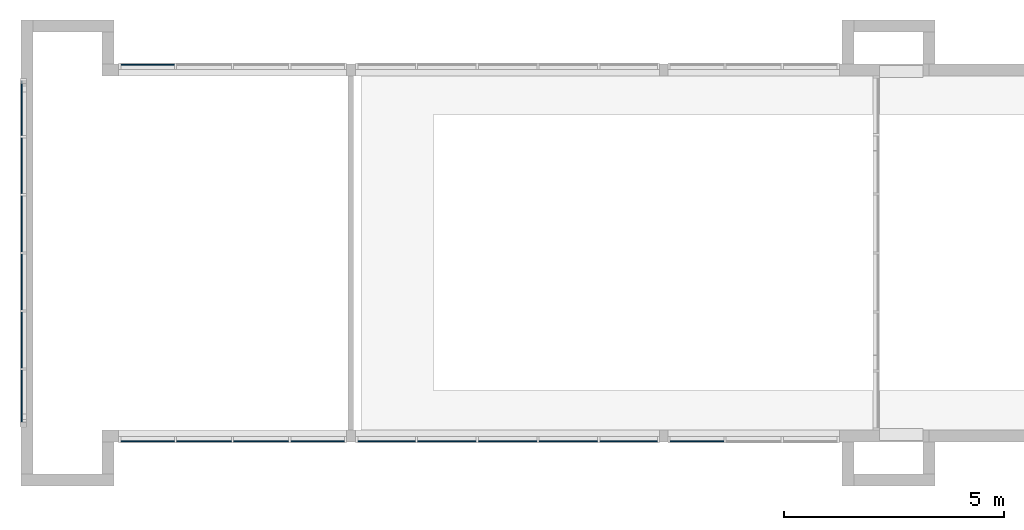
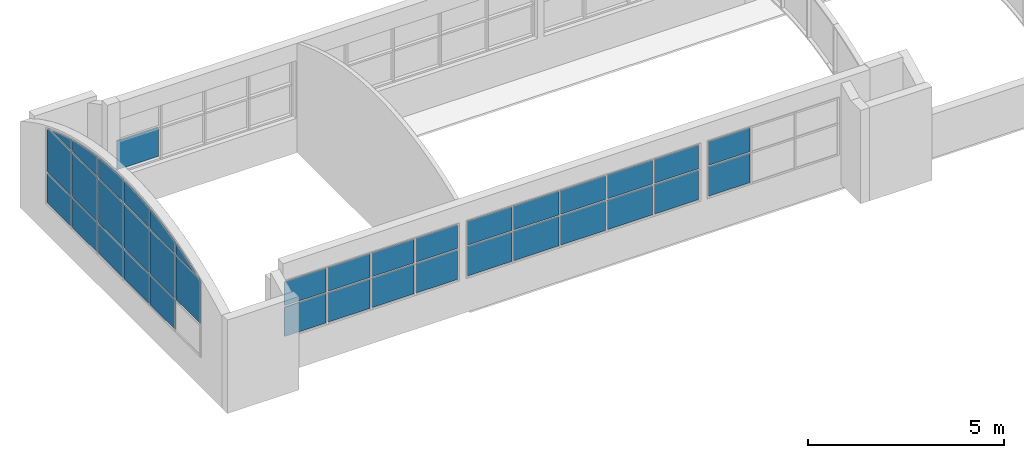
# One storey, part 9 of 14: 38 plates, 5 elements without a shape of their own.
"""IFC2X3 building model written with IfcOpenShell, lengths in metres."""

from ifc_helpers import new_model, entity, si_unit, converted_unit, frame, frame_2d, origin, origin_2d_with_axis, place, context, project, spatial, polyline, circle_curve, parameter, trimmed, segment, composite_curve, rectangle, outline, extrude, source, transform, mapped, material, type_object, type_shapes, element, aggregate, save


model = new_model("IFC2X3")

# Units and contexts
model_context = context("Model", 3, precision=1e-09, world=origin())
plan_context = context("Plan", 3, precision=1e-09, world=origin())
ifc_project = project(units=[si_unit("LENGTHUNIT", "METRE"), si_unit("AREAUNIT", "SQUARE_METRE"), si_unit("VOLUMEUNIT", "CUBIC_METRE"), converted_unit("PLANEANGLEUNIT", "DEGREE", entity("IfcRatioMeasure", 0.01745329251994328), si_unit("PLANEANGLEUNIT", "RADIAN"), dimensions=[0, 0, 0, 0, 0, 0, 0]), si_unit("TIMEUNIT", "SECOND")], contexts=[model_context, plan_context])

# Site, building, storey
site_placement = place(None, origin())
site = spatial("IfcSite", under=ifc_project, at=site_placement, Name="Default", CompositionType="ELEMENT")
building_placement = place(site_placement, origin())
building = spatial("IfcBuilding", under=site, at=building_placement, CompositionType="ELEMENT")
storey_placement = place(building_placement, frame((0.0, 0.0, 9.25000000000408)))
storey = spatial("IfcBuildingStorey", under=building, at=storey_placement, Name="Roof - Main", CompositionType="ELEMENT", Elevation=9.25000000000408)

# Curtain wall, plates
curtain_wall_1_placement = place(storey_placement, origin())
curtain_wall_1 = element("IfcCurtainWall", 1, at=curtain_wall_1_placement, inside=storey, Name="Curtain Wall:Storefront", ObjectType="Curtain Wall:Storefront")
ifc_material = material(Name="Glass")
plate_type_1 = type_object("IfcPlateType", Name="Glazed", PredefinedType="CURTAIN_PANEL")
shared_shape_1 = source(origin(), model_context, "Body", "SweptSolid", [
    extrude(rectangle(XDim=0.025, YDim=1.269395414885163, at=origin_2d_with_axis()), frame((0.0, 0.03699999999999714, 0.0), z_axis=(0.0, 0.0, 1.0), x_axis=(0.0, 1.0, 0.0)), (0.0, 0.0, 1.0), 0.9118944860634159),
])
type_shapes(plate_type_1, [shared_shape_1])
plate_1_placement = place(storey_placement, frame((-40.99000000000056, 32.35469770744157, 1.117), z_axis=(0.0, 0.0, 1.0), x_axis=(0.0, 1.0, 0.0)))
plate_1 = element("IfcPlate", 2, at=plate_1_placement, type_object=plate_type_1, material=ifc_material, Name="System Panel:Glazed:Glazed", ObjectType="Glazed", context=model_context, shape_type="MappedRepresentation", body=[
    mapped(shared_shape_1, transform((0.0, 0.0, 0.0), scale=1.0)),
])
plate_2_placement = place(storey_placement, frame((-40.99000000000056, 31.0353022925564, 1.117), z_axis=(0.0, 0.0, 1.0), x_axis=(0.0, 1.0, 0.0)))
plate_2 = element("IfcPlate", 3, at=plate_2_placement, type_object=plate_type_1, material=ifc_material, Name="System Panel:Glazed:Glazed", ObjectType="Glazed", context=model_context, shape_type="MappedRepresentation", body=[
    mapped(shared_shape_1, transform((0.0, 0.0, 0.0), scale=1.0)),
])
plate_3_placement = place(storey_placement, frame((-40.99000000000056, 29.71590687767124, 1.117), z_axis=(0.0, 0.0, 1.0), x_axis=(0.0, 1.0, 0.0)))
plate_3 = element("IfcPlate", 4, at=plate_3_placement, type_object=plate_type_1, material=ifc_material, Name="System Panel:Glazed:Glazed", ObjectType="Glazed", context=model_context, shape_type="MappedRepresentation", body=[
    mapped(shared_shape_1, transform((0.0, 0.0, 0.0), scale=1.0)),
])
plate_4_placement = place(storey_placement, frame((-40.99000000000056, 33.67409312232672, 1.117), z_axis=(0.0, 0.0, 1.0), x_axis=(0.0, 1.0, 0.0)))
plate_4 = element("IfcPlate", 5, at=plate_4_placement, type_object=plate_type_1, material=ifc_material, Name="System Panel:Glazed:Glazed", ObjectType="Glazed", context=model_context, shape_type="MappedRepresentation", body=[
    mapped(shared_shape_1, transform((0.0, 0.0, 0.0), scale=1.0)),
])
plate_type_2 = type_object("IfcPlateType", Name="Glazed", PredefinedType="CURTAIN_PANEL")
shared_shape_2 = source(origin(), model_context, "Body", "SweptSolid", [
    extrude(rectangle(XDim=0.025, YDim=1.269395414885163, at=origin_2d_with_axis()), frame((0.0, 0.03699999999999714, 0.0), z_axis=(0.0, 0.0, 1.0), x_axis=(0.0, 1.0, 0.0)), (0.0, 0.0, 1.0), 1.363105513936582),
])
type_shapes(plate_type_2, [shared_shape_2])
plate_5_placement = place(storey_placement, frame((-40.99000000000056, 33.67409312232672, 2.078894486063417), z_axis=(0.0, 0.0, 1.0), x_axis=(0.0, 1.0, 0.0)))
plate_5 = element("IfcPlate", 6, at=plate_5_placement, type_object=plate_type_2, material=ifc_material, Name="System Panel:Glazed:Glazed", ObjectType="Glazed", context=model_context, shape_type="MappedRepresentation", body=[
    mapped(shared_shape_2, transform((0.0, 0.0, 0.0), scale=1.0)),
])
plate_6_placement = place(storey_placement, frame((-40.99000000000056, 29.71590687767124, 2.078894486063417), z_axis=(0.0, 0.0, 1.0), x_axis=(0.0, 1.0, 0.0)))
plate_6 = element("IfcPlate", 7, at=plate_6_placement, type_object=plate_type_2, material=ifc_material, Name="System Panel:Glazed:Glazed", ObjectType="Glazed", context=model_context, shape_type="MappedRepresentation", body=[
    mapped(shared_shape_2, transform((0.0, 0.0, 0.0), scale=1.0)),
])
plate_7_placement = place(storey_placement, frame((-40.99000000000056, 32.35469770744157, 2.078894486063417), z_axis=(0.0, 0.0, 1.0), x_axis=(0.0, 1.0, 0.0)))
plate_7 = element("IfcPlate", 8, at=plate_7_placement, type_object=plate_type_2, material=ifc_material, Name="System Panel:Glazed:Glazed", ObjectType="Glazed", context=model_context, shape_type="MappedRepresentation", body=[
    mapped(shared_shape_2, transform((0.0, 0.0, 0.0), scale=1.0)),
])
plate_8_placement = place(storey_placement, frame((-40.99000000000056, 31.0353022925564, 2.078894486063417), z_axis=(0.0, 0.0, 1.0), x_axis=(0.0, 1.0, 0.0)))
plate_8 = element("IfcPlate", 9, at=plate_8_placement, type_object=plate_type_2, material=ifc_material, Name="System Panel:Glazed:Glazed", ObjectType="Glazed", context=model_context, shape_type="MappedRepresentation", body=[
    mapped(shared_shape_2, transform((0.0, 0.0, 0.0), scale=1.0)),
])

curtain_wall_2_placement = place(storey_placement, origin())
curtain_wall_2 = element("IfcCurtainWall", 10, at=curtain_wall_2_placement, inside=storey, Name="Curtain Wall:Storefront", ObjectType="Curtain Wall:Storefront")
plate_type_3 = type_object("IfcPlateType", Name="Glazed", PredefinedType="CURTAIN_PANEL")
shared_shape_3 = source(origin(), model_context, "Body", "SweptSolid", [
    extrude(rectangle(XDim=0.02500000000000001, YDim=1.331000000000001, at=origin_2d_with_axis()), frame((0.0, -0.03699999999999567, 0.0), z_axis=(0.0, 0.0, 1.0), x_axis=(0.0, 1.0, 0.0)), (0.0, 0.0, 1.0), 0.7381055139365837),
])
type_shapes(plate_type_3, [shared_shape_3])
plate_9_placement = place(storey_placement, frame((-31.37250000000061, 27.45559600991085, 2.078894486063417)))
plate_9 = element("IfcPlate", 11, at=plate_9_placement, type_object=plate_type_3, material=ifc_material, Name="System Panel:Glazed:Glazed", ObjectType="Glazed", context=model_context, shape_type="MappedRepresentation", body=[
    mapped(shared_shape_3, transform((0.0, 0.0, 0.0), scale=1.0)),
])
plate_10_placement = place(storey_placement, frame((-29.99150000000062, 27.45559600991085, 2.078894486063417)))
plate_10 = element("IfcPlate", 12, at=plate_10_placement, type_object=plate_type_3, material=ifc_material, Name="System Panel:Glazed:Glazed", ObjectType="Glazed", context=model_context, shape_type="MappedRepresentation", body=[
    mapped(shared_shape_3, transform((0.0, 0.0, 0.0), scale=1.0)),
])
plate_11_placement = place(storey_placement, frame((-28.61050000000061, 27.45559600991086, 2.078894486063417)))
plate_11 = element("IfcPlate", 13, at=plate_11_placement, type_object=plate_type_3, material=ifc_material, Name="System Panel:Glazed:Glazed", ObjectType="Glazed", context=model_context, shape_type="MappedRepresentation", body=[
    mapped(shared_shape_3, transform((0.0, 0.0, 0.0), scale=1.0)),
])
plate_type_4 = type_object("IfcPlateType", Name="Glazed", PredefinedType="CURTAIN_PANEL")
shared_shape_4 = source(origin(), model_context, "Body", "SweptSolid", [
    extrude(rectangle(XDim=0.02500000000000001, YDim=1.331000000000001, at=origin_2d_with_axis()), frame((0.0, -0.03699999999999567, 0.0), z_axis=(0.0, 0.0, 1.0), x_axis=(0.0, 1.0, 0.0)), (0.0, 0.0, 1.0), 0.9118944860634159),
])
type_shapes(plate_type_4, [shared_shape_4])
plate_12_placement = place(storey_placement, frame((-31.37250000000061, 27.45559600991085, 1.117)))
plate_12 = element("IfcPlate", 14, at=plate_12_placement, type_object=plate_type_4, material=ifc_material, Name="System Panel:Glazed:Glazed", ObjectType="Glazed", context=model_context, shape_type="MappedRepresentation", body=[
    mapped(shared_shape_4, transform((0.0, 0.0, 0.0), scale=1.0)),
])
plate_13_placement = place(storey_placement, frame((-29.99150000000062, 27.45559600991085, 1.117)))
plate_13 = element("IfcPlate", 15, at=plate_13_placement, type_object=plate_type_4, material=ifc_material, Name="System Panel:Glazed:Glazed", ObjectType="Glazed", context=model_context, shape_type="MappedRepresentation", body=[
    mapped(shared_shape_4, transform((0.0, 0.0, 0.0), scale=1.0)),
])
plate_14_placement = place(storey_placement, frame((-28.61050000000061, 27.45559600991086, 1.117)))
plate_14 = element("IfcPlate", 16, at=plate_14_placement, type_object=plate_type_4, material=ifc_material, Name="System Panel:Glazed:Glazed", ObjectType="Glazed", context=model_context, shape_type="MappedRepresentation", body=[
    mapped(shared_shape_4, transform((0.0, 0.0, 0.0), scale=1.0)),
])

curtain_wall_3_placement = place(storey_placement, origin())
curtain_wall_3 = element("IfcCurtainWall", 17, at=curtain_wall_3_placement, inside=storey, Name="Curtain Wall:Storefront", ObjectType="Curtain Wall:Storefront")
plate_type_5 = type_object("IfcPlateType", Name="Glazed", PredefinedType="CURTAIN_PANEL")
shared_shape_5 = source(origin(), model_context, "Body", "SweptSolid", [
    extrude(rectangle(XDim=0.02500000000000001, YDim=1.221666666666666, at=origin_2d_with_axis()), frame((0.0, -0.03700000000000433, 0.0), z_axis=(0.0, 0.0, 1.0), x_axis=(0.0, 1.0, 0.0)), (0.0, 0.0, 1.0), 0.7381055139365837),
])
type_shapes(plate_type_5, [shared_shape_5])
plate_15_placement = place(storey_placement, frame((-25.68916666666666, 27.45559600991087, 2.078894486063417)))
plate_15 = element("IfcPlate", 18, at=plate_15_placement, type_object=plate_type_5, material=ifc_material, Name="System Panel:Glazed:Glazed", ObjectType="Glazed", context=model_context, shape_type="MappedRepresentation", body=[
    mapped(shared_shape_5, transform((0.0, 0.0, 0.0), scale=1.0)),
])
plate_type_6 = type_object("IfcPlateType", Name="Glazed", PredefinedType="CURTAIN_PANEL")
shared_shape_6 = source(origin(), model_context, "Body", "SweptSolid", [
    extrude(rectangle(XDim=0.02500000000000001, YDim=1.221666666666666, at=origin_2d_with_axis()), frame((0.0, -0.03700000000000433, 0.0), z_axis=(0.0, 0.0, 1.0), x_axis=(0.0, 1.0, 0.0)), (0.0, 0.0, 1.0), 0.9118944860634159),
])
type_shapes(plate_type_6, [shared_shape_6])
plate_16_placement = place(storey_placement, frame((-25.68916666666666, 27.45559600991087, 1.117)))
plate_16 = element("IfcPlate", 19, at=plate_16_placement, type_object=plate_type_6, material=ifc_material, Name="System Panel:Glazed:Glazed", ObjectType="Glazed", context=model_context, shape_type="MappedRepresentation", body=[
    mapped(shared_shape_6, transform((0.0, 0.0, 0.0), scale=1.0)),
])
aggregate(curtain_wall_3, [plate_16, plate_15])

curtain_wall_4_placement = place(storey_placement, origin())
curtain_wall_4 = element("IfcCurtainWall", 20, at=curtain_wall_4_placement, inside=storey, Name="Curtain Wall:Storefront", ObjectType="Curtain Wall:Storefront")
plate_type_7 = type_object("IfcPlateType", Name="Glazed", PredefinedType="CURTAIN_PANEL")
shared_shape_7 = source(origin(), model_context, "Body", "SweptSolid", [
    extrude(rectangle(XDim=0.02500000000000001, YDim=1.22, at=origin_2d_with_axis()), frame((0.0, -0.037, 0.0), z_axis=(0.0, 0.0, 1.0), x_axis=(0.0, 1.0, 0.0)), (0.0, 0.0, 1.0), 0.7381055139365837),
])
type_shapes(plate_type_7, [shared_shape_7])
plate_17_placement = place(storey_placement, frame((-38.16600000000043, 27.45559600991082, 2.078894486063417)))
plate_17 = element("IfcPlate", 21, at=plate_17_placement, type_object=plate_type_7, material=ifc_material, Name="System Panel:Glazed:Glazed", ObjectType="Glazed", context=model_context, shape_type="MappedRepresentation", body=[
    mapped(shared_shape_7, transform((0.0, 0.0, 0.0), scale=1.0)),
])
plate_18_placement = place(storey_placement, frame((-34.30600000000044, 27.45559600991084, 2.078894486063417)))
plate_18 = element("IfcPlate", 22, at=plate_18_placement, type_object=plate_type_7, material=ifc_material, Name="System Panel:Glazed:Glazed", ObjectType="Glazed", context=model_context, shape_type="MappedRepresentation", body=[
    mapped(shared_shape_7, transform((0.0, 0.0, 0.0), scale=1.0)),
])

# Plate
plate_type_8 = type_object("IfcPlateType", Name="Glazed", PredefinedType="CURTAIN_PANEL")
shared_shape_8 = source(origin(), model_context, "Body", "SweptSolid", [
    extrude(rectangle(XDim=0.02500000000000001, YDim=1.305999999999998, at=origin_2d_with_axis()), frame((0.0, -0.037, 0.0), z_axis=(0.0, 0.0, 1.0), x_axis=(0.0, 1.0, 0.0)), (0.0, 0.0, 1.0), 0.7381055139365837),
])
type_shapes(plate_type_8, [shared_shape_8])
plate_19_placement = place(storey_placement, frame((-32.74100000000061, 27.45559600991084, 2.078894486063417)))
plate_19 = element("IfcPlate", 23, at=plate_19_placement, type_object=plate_type_8, material=ifc_material, Name="System Panel:Glazed:Glazed", ObjectType="Glazed", context=model_context, shape_type="MappedRepresentation", body=[
    mapped(shared_shape_8, transform((0.0, 0.0, 0.0), scale=1.0)),
])

plate_20_placement = place(storey_placement, frame((-27.24200000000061, 27.45559600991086, 2.078894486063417)))
plate_20 = element("IfcPlate", 24, at=plate_20_placement, type_object=plate_type_8, material=ifc_material, Name="System Panel:Glazed:Glazed", ObjectType="Glazed", context=model_context, shape_type="MappedRepresentation", body=[
    mapped(shared_shape_8, transform((0.0, 0.0, 0.0), scale=1.0)),
])

# Curtain wall, plate
curtain_wall_5_placement = place(storey_placement, origin())
curtain_wall_5 = element("IfcCurtainWall", 25, at=curtain_wall_5_placement, inside=storey, Name="Curtain Wall:Storefront", ObjectType="Curtain Wall:Storefront")
plate_type_9 = type_object("IfcPlateType", Name="Glazed", PredefinedType="CURTAIN_PANEL")
shared_shape_9 = source(origin(), model_context, "Body", "SweptSolid", [
    extrude(rectangle(XDim=0.025, YDim=1.22, at=origin_2d_with_axis()), frame((0.0, 0.037, 0.0), z_axis=(0.0, 0.0, 1.0), x_axis=(0.0, 1.0, 0.0)), (0.0, 0.0, 1.0), 0.9118944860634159),
])
type_shapes(plate_type_9, [shared_shape_9])
plate_21_placement = place(storey_placement, frame((-38.16600000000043, 35.93490399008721, 1.117)))
plate_21 = element("IfcPlate", 26, at=plate_21_placement, type_object=plate_type_9, material=ifc_material, Name="System Panel:Glazed:Glazed", ObjectType="Glazed", context=model_context, shape_type="MappedRepresentation", body=[
    mapped(shared_shape_9, transform((0.0, 0.0, 0.0), scale=1.0)),
])
aggregate(curtain_wall_5, [plate_21])

# Plate
plate_type_10 = type_object("IfcPlateType", Name="Glazed", PredefinedType="CURTAIN_PANEL")
shared_shape_10 = source(origin(), model_context, "Body", "SweptSolid", [
    extrude(rectangle(XDim=0.02500000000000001, YDim=1.22, at=origin_2d_with_axis()), frame((0.0, -0.037, 0.0), z_axis=(0.0, 0.0, 1.0), x_axis=(0.0, 1.0, 0.0)), (0.0, 0.0, 1.0), 0.9118944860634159),
])
type_shapes(plate_type_10, [shared_shape_10])
plate_22_placement = place(storey_placement, frame((-38.16600000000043, 27.45559600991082, 1.117)))
plate_22 = element("IfcPlate", 27, at=plate_22_placement, type_object=plate_type_10, material=ifc_material, Name="System Panel:Glazed:Glazed", ObjectType="Glazed", context=model_context, shape_type="MappedRepresentation", body=[
    mapped(shared_shape_10, transform((0.0, 0.0, 0.0), scale=1.0)),
])

plate_23_placement = place(storey_placement, frame((-34.30600000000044, 27.45559600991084, 1.117)))
plate_23 = element("IfcPlate", 28, at=plate_23_placement, type_object=plate_type_10, material=ifc_material, Name="System Panel:Glazed:Glazed", ObjectType="Glazed", context=model_context, shape_type="MappedRepresentation", body=[
    mapped(shared_shape_10, transform((0.0, 0.0, 0.0), scale=1.0)),
])

plate_type_11 = type_object("IfcPlateType", Name="Glazed", PredefinedType="CURTAIN_PANEL")
shared_shape_11 = source(origin(), model_context, "Body", "SweptSolid", [
    extrude(rectangle(XDim=0.02500000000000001, YDim=1.305999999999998, at=origin_2d_with_axis()), frame((0.0, -0.037, 0.0), z_axis=(0.0, 0.0, 1.0), x_axis=(0.0, 1.0, 0.0)), (0.0, 0.0, 1.0), 0.9118944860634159),
])
type_shapes(plate_type_11, [shared_shape_11])
plate_24_placement = place(storey_placement, frame((-32.74100000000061, 27.45559600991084, 1.117)))
plate_24 = element("IfcPlate", 29, at=plate_24_placement, type_object=plate_type_11, material=ifc_material, Name="System Panel:Glazed:Glazed", ObjectType="Glazed", context=model_context, shape_type="MappedRepresentation", body=[
    mapped(shared_shape_11, transform((0.0, 0.0, 0.0), scale=1.0)),
])

plate_25_placement = place(storey_placement, frame((-27.24200000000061, 27.45559600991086, 1.117)))
plate_25 = element("IfcPlate", 30, at=plate_25_placement, type_object=plate_type_11, material=ifc_material, Name="System Panel:Glazed:Glazed", ObjectType="Glazed", context=model_context, shape_type="MappedRepresentation", body=[
    mapped(shared_shape_11, transform((0.0, 0.0, 0.0), scale=1.0)),
])

aggregate(curtain_wall_2, [plate_9, plate_19, plate_12, plate_10, plate_20, plate_24, plate_13, plate_11, plate_25, plate_14])

plate_type_12 = type_object("IfcPlateType", Name="Glazed", PredefinedType="CURTAIN_PANEL")
shared_shape_12 = source(origin(), model_context, "Body", "SweptSolid", [
    extrude(rectangle(XDim=0.02500000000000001, YDim=1.245000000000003, at=origin_2d_with_axis()), frame((0.0, -0.03699999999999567, 0.0), z_axis=(0.0, 0.0, 1.0), x_axis=(0.0, 1.0, 0.0)), (0.0, 0.0, 1.0), 0.7381055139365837),
])
type_shapes(plate_type_12, [shared_shape_12])
plate_26_placement = place(storey_placement, frame((-36.88350000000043, 27.45559600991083, 2.078894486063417)))
plate_26 = element("IfcPlate", 31, at=plate_26_placement, type_object=plate_type_12, material=ifc_material, Name="System Panel:Glazed:Glazed", ObjectType="Glazed", context=model_context, shape_type="MappedRepresentation", body=[
    mapped(shared_shape_12, transform((0.0, 0.0, 0.0), scale=1.0)),
])

plate_27_placement = place(storey_placement, frame((-35.58850000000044, 27.45559600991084, 2.078894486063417)))
plate_27 = element("IfcPlate", 32, at=plate_27_placement, type_object=plate_type_12, material=ifc_material, Name="System Panel:Glazed:Glazed", ObjectType="Glazed", context=model_context, shape_type="MappedRepresentation", body=[
    mapped(shared_shape_12, transform((0.0, 0.0, 0.0), scale=1.0)),
])

plate_type_13 = type_object("IfcPlateType", Name="Glazed", PredefinedType="CURTAIN_PANEL")
shared_shape_13 = source(origin(), model_context, "Body", "SweptSolid", [
    extrude(rectangle(XDim=0.025, YDim=1.244395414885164, at=origin_2d_with_axis()), frame((0.0, 0.0369999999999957, 0.0), z_axis=(0.0, 0.0, 1.0), x_axis=(0.0, 1.0, 0.0)), (0.0, 0.0, 1.0), 0.9118944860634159),
])
type_shapes(plate_type_13, [shared_shape_13])
plate_28_placement = place(storey_placement, frame((-40.99000000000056, 34.98098853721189, 1.117), z_axis=(0.0, 0.0, 1.0), x_axis=(0.0, 1.0, 0.0)))
plate_28 = element("IfcPlate", 33, at=plate_28_placement, type_object=plate_type_13, material=ifc_material, Name="System Panel:Glazed:Glazed", ObjectType="Glazed", context=model_context, shape_type="MappedRepresentation", body=[
    mapped(shared_shape_13, transform((0.0, 0.0, 0.0), scale=1.0)),
])

plate_type_14 = type_object("IfcPlateType", Name="Glazed", PredefinedType="CURTAIN_PANEL")
shared_shape_14 = source(origin(), model_context, "Body", "SweptSolid", [
    extrude(rectangle(XDim=0.02500000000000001, YDim=1.245000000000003, at=origin_2d_with_axis()), frame((0.0, -0.03699999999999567, 0.0), z_axis=(0.0, 0.0, 1.0), x_axis=(0.0, 1.0, 0.0)), (0.0, 0.0, 1.0), 0.9118944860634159),
])
type_shapes(plate_type_14, [shared_shape_14])
plate_29_placement = place(storey_placement, frame((-36.88350000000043, 27.45559600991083, 1.117)))
plate_29 = element("IfcPlate", 34, at=plate_29_placement, type_object=plate_type_14, material=ifc_material, Name="System Panel:Glazed:Glazed", ObjectType="Glazed", context=model_context, shape_type="MappedRepresentation", body=[
    mapped(shared_shape_14, transform((0.0, 0.0, 0.0), scale=1.0)),
])

plate_30_placement = place(storey_placement, frame((-35.58850000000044, 27.45559600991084, 1.117)))
plate_30 = element("IfcPlate", 35, at=plate_30_placement, type_object=plate_type_14, material=ifc_material, Name="System Panel:Glazed:Glazed", ObjectType="Glazed", context=model_context, shape_type="MappedRepresentation", body=[
    mapped(shared_shape_14, transform((0.0, 0.0, 0.0), scale=1.0)),
])

aggregate(curtain_wall_4, [plate_29, plate_30, plate_17, plate_22, plate_23, plate_18, plate_26, plate_27])

plate_type_15 = type_object("IfcPlateType", Name="Glazed", PredefinedType="CURTAIN_PANEL")
shared_shape_15 = source(origin(), model_context, "Body", "SweptSolid", [
    extrude(outline(composite_curve([segment(polyline([(-0.3204214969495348, 0.634697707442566), (-0.3204214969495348, -0.6346977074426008)]), True, "CONTINUOUS"), segment(polyline([(-0.3204214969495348, -0.6346977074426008), (0.2790040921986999, -0.6346977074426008)]), True, "CONTINUOUS"), segment(trimmed(circle_curve(frame_2d((-9.78906327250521, 0.659697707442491), x_axis=(0.9916002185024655, -0.1293406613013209)), 10.1509329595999), [parameter(0.1054807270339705)], [parameter(7.290383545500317)], True, "PARAMETER"), True, "CONTINUOUS"), segment(polyline([(0.3618389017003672, 0.634697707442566), (-0.3204214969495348, 0.634697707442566)]), True, "CONTINUOUS")], self_intersect=False)), frame((0.0, 0.02450000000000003, 0.3204214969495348), z_axis=(0.0, -1.0, 0.0), x_axis=(0.0, 0.0, 1.0)), (0.0, 0.0, -1.0), 0.025),
])
type_shapes(plate_type_15, [shared_shape_15])
plate_31_placement = place(storey_placement, frame((-40.99000000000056, 32.35469770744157, 3.492000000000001), z_axis=(0.0, 0.0, 1.0), x_axis=(0.0, 1.0, 0.0)))
plate_31 = element("IfcPlate", 36, at=plate_31_placement, type_object=plate_type_15, material=ifc_material, Name="System Panel:Glazed:Glazed", ObjectType="Glazed", context=model_context, shape_type="MappedRepresentation", body=[
    mapped(shared_shape_15, transform((0.0, 0.0, 0.0), scale=1.0)),
])

plate_type_16 = type_object("IfcPlateType", Name="Glazed", PredefinedType="CURTAIN_PANEL")
shared_shape_16 = source(origin(), model_context, "Body", "SweptSolid", [
    extrude(outline(composite_curve([segment(polyline([(-0.2332188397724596, -0.6346977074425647), (0.1067854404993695, -0.6346977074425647)]), True, "CONTINUOUS"), segment(trimmed(circle_curve(frame_2d((-9.70186061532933, 1.979093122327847), x_axis=(0.9916002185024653, -0.1293406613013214)), 10.15093295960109), [parameter(352.5101554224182)], [parameter(359.8208465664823)], True, "PARAMETER"), True, "CONTINUOUS"), segment(polyline([(0.3596522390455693, 0.6346977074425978), (-0.2332188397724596, 0.6346977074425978)]), True, "CONTINUOUS"), segment(polyline([(-0.2332188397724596, 0.6346977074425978), (-0.2332188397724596, -0.6346977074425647)]), True, "CONTINUOUS")], self_intersect=False)), frame((0.0, 0.02449999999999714, 0.2332188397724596), z_axis=(0.0, 1.0, 0.0), x_axis=(0.0, 0.0, 1.0)), (0.0, 0.0, 1.0), 0.025),
])
type_shapes(plate_type_16, [shared_shape_16])
plate_32_placement = place(storey_placement, frame((-40.99000000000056, 29.71590687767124, 3.492000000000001), z_axis=(0.0, 0.0, 1.0), x_axis=(0.0, 1.0, 0.0)))
plate_32 = element("IfcPlate", 37, at=plate_32_placement, type_object=plate_type_16, material=ifc_material, Name="System Panel:Glazed:Glazed", ObjectType="Glazed", context=model_context, shape_type="MappedRepresentation", body=[
    mapped(shared_shape_16, transform((0.0, 0.0, 0.0), scale=1.0)),
])

plate_type_17 = type_object("IfcPlateType", Name="Glazed", PredefinedType="CURTAIN_PANEL")
shared_shape_17 = source(origin(), model_context, "Body", "SweptSolid", [
    extrude(outline(composite_curve([segment(polyline([(-0.896820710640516, -0.8093932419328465), (0.4662848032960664, -0.8093932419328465)]), True, "CONTINUOUS"), segment(polyline([(0.4662848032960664, -0.8093932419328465), (0.4662848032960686, 0.3838437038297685)]), True, "CONTINUOUS"), segment(polyline([(0.4662848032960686, 0.3838437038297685), (0.4449966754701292, 0.364938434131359)]), True, "CONTINUOUS"), segment(trimmed(circle_curve(frame_2d((-8.952356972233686, -3.473184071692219), x_axis=(0.9216501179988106, 0.3880219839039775)), 10.15093295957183), [parameter(359.3848983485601)], [parameter(359.8127341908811)], True, "PARAMETER"), True, "CONTINUOUS"), segment(polyline([(0.4160751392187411, 0.435002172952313), (-0.896820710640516, 0.435002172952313)]), True, "CONTINUOUS"), segment(polyline([(-0.896820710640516, 0.435002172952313), (-0.896820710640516, -0.8093932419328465)]), True, "CONTINUOUS")], self_intersect=False)), frame((0.1871955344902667, 0.02450000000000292, 0.896820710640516), z_axis=(0.0, 1.0, 0.0), x_axis=(0.0, 0.0, 1.0)), (0.0, 0.0, 1.0), 0.025),
])
type_shapes(plate_type_17, [shared_shape_17])
plate_33_placement = place(storey_placement, frame((-40.99000000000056, 34.98098853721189, 2.078894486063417), z_axis=(0.0, 0.0, 1.0), x_axis=(0.0, 1.0, 0.0)))
plate_33 = element("IfcPlate", 38, at=plate_33_placement, type_object=plate_type_17, material=ifc_material, Name="System Panel:Glazed:Glazed", ObjectType="Glazed", context=model_context, shape_type="MappedRepresentation", body=[
    mapped(shared_shape_17, transform((0.0, 0.0, 0.0), scale=1.0)),
])

plate_type_18 = type_object("IfcPlateType", Name="Glazed", PredefinedType="CURTAIN_PANEL")
shared_shape_18 = source(origin(), model_context, "Body", "SweptSolid", [
    extrude(outline(composite_curve([segment(polyline([(-0.1088478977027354, 0.3316444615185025), (-0.1088478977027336, -0.66328892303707)]), True, "CONTINUOUS"), segment(trimmed(circle_curve(frame_2d((-9.57748967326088, 2.995435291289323), x_axis=(0.9257625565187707, -0.3781053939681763)), 10.15093295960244), [parameter(1.089627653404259)], [parameter(7.002770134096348)], True, "PARAMETER"), True, "CONTINUOUS"), segment(polyline([(0.2176957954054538, 0.3316444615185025), (-0.1088478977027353, 0.3316444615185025)]), True, "CONTINUOUS")], self_intersect=False)), frame((-0.1658222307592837, 0.02450000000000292, 0.1088478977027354), z_axis=(0.0, -1.0, 0.0), x_axis=(0.0, 0.0, 1.0)), (0.0, 0.0, -1.0), 0.025),
])
type_shapes(plate_type_18, [shared_shape_18])
plate_34_placement = place(storey_placement, frame((-40.99000000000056, 34.8562575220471, 3.492000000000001), z_axis=(0.0, 0.0, 1.0), x_axis=(0.0, 1.0, 0.0)))
plate_34 = element("IfcPlate", 39, at=plate_34_placement, type_object=plate_type_18, material=ifc_material, Name="System Panel:Glazed:Glazed", ObjectType="Glazed", context=model_context, shape_type="MappedRepresentation", body=[
    mapped(shared_shape_18, transform((0.0, 0.0, 0.0), scale=1.0)),
])

plate_type_19 = type_object("IfcPlateType", Name="Glazed", PredefinedType="CURTAIN_PANEL")
shared_shape_19 = source(origin(), model_context, "Body", "SweptSolid", [
    extrude(outline(composite_curve([segment(polyline([(-0.8968207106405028, -0.4350021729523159), (0.4160751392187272, -0.4350021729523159)]), True, "CONTINUOUS"), segment(trimmed(circle_curve(frame_2d((-8.952356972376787, 3.473184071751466), x_axis=(0.9257625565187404, -0.3781053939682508)), 10.1509329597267), [parameter(359.5721641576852)], [parameter(0.0)], True, "PARAMETER"), True, "CONTINUOUS"), segment(polyline([(0.4449966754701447, -0.3649384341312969), (0.4662848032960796, -0.3838437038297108)]), True, "CONTINUOUS"), segment(polyline([(0.4662848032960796, -0.3838437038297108), (0.4662848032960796, 0.8093932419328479)]), True, "CONTINUOUS"), segment(polyline([(0.4662848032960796, 0.8093932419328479), (-0.8968207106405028, 0.8093932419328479)]), True, "CONTINUOUS"), segment(polyline([(-0.8968207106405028, 0.8093932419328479), (-0.8968207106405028, -0.4350021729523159)]), True, "CONTINUOUS")], self_intersect=False)), frame((-0.1871955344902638, 0.0244999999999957, 0.8968207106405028), z_axis=(0.0, 1.0, 0.0), x_axis=(0.0, 0.0, 1.0)), (0.0, 0.0, 1.0), 0.025),
])
type_shapes(plate_type_19, [shared_shape_19])
plate_35_placement = place(storey_placement, frame((-40.99000000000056, 28.40901146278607, 2.078894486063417), z_axis=(0.0, 0.0, 1.0), x_axis=(0.0, 1.0, 0.0)))
plate_35 = element("IfcPlate", 40, at=plate_35_placement, type_object=plate_type_19, material=ifc_material, Name="System Panel:Glazed:Glazed", ObjectType="Glazed", context=model_context, shape_type="MappedRepresentation", body=[
    mapped(shared_shape_19, transform((0.0, 0.0, 0.0), scale=1.0)),
])

plate_type_20 = type_object("IfcPlateType", Name="Glazed", PredefinedType="CURTAIN_PANEL")
shared_shape_20 = source(origin(), model_context, "Body", "SweptSolid", [
    extrude(outline(composite_curve([segment(trimmed(circle_curve(frame_2d((-10.02636112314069, 0.4159611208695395), x_axis=(1.0, 0.0)), 10.15093295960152), [parameter(353.8650828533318)], [parameter(359.7782253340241)], True, "PARAMETER"), True, "CONTINUOUS"), segment(polyline([(0.1244957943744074, 0.3766700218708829), (-0.1909332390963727, 0.2921992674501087)]), True, "CONTINUOUS"), segment(polyline([(-0.1909332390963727, 0.2921992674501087), (0.06643744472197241, -0.6688692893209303)]), True, "CONTINUOUS")], self_intersect=False)), frame((0.1658222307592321, 0.02449999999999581, 0.1088478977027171), z_axis=(0.0, 1.0, 0.0), x_axis=(-0.2586813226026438, 0.0, 0.9659627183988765)), (0.0, 0.0, 1.0), 0.02499999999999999),
])
type_shapes(plate_type_20, [shared_shape_20])
plate_36_placement = place(storey_placement, frame((-40.99000000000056, 28.5337424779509, 3.492000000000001), z_axis=(0.0, 0.0, 1.0), x_axis=(0.0, 1.0, 0.0)))
plate_36 = element("IfcPlate", 41, at=plate_36_placement, type_object=plate_type_20, material=ifc_material, Name="System Panel:Glazed:Glazed", ObjectType="Glazed", context=model_context, shape_type="MappedRepresentation", body=[
    mapped(shared_shape_20, transform((0.0, 0.0, 0.0), scale=1.0)),
])

plate_type_21 = type_object("IfcPlateType", Name="Glazed", PredefinedType="CURTAIN_PANEL")
shared_shape_21 = source(origin(), model_context, "Body", "SweptSolid", [
    extrude(outline(composite_curve([segment(polyline([(-0.2332188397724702, 0.634697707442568), (-0.2332188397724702, -0.6346977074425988)]), True, "CONTINUOUS"), segment(polyline([(-0.2332188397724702, -0.6346977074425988), (0.1067854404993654, -0.6346977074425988)]), True, "CONTINUOUS"), segment(trimmed(circle_curve(frame_2d((-9.701860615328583, 1.979093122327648), x_axis=(0.9659627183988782, -0.2586813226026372)), 10.15093295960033), [parameter(0.0704929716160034)], [parameter(7.381184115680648)], True, "PARAMETER"), True, "CONTINUOUS"), segment(polyline([(0.3596522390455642, 0.634697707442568), (-0.2332188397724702, 0.634697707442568)]), True, "CONTINUOUS")], self_intersect=False)), frame((0.0, 0.02450000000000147, 0.2332188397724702), z_axis=(0.0, -1.0, 0.0), x_axis=(0.0, 0.0, 1.0)), (0.0, 0.0, -1.0), 0.025),
])
type_shapes(plate_type_21, [shared_shape_21])
plate_37_placement = place(storey_placement, frame((-40.99000000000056, 33.67409312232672, 3.492000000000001), z_axis=(0.0, 0.0, 1.0), x_axis=(0.0, 1.0, 0.0)))
plate_37 = element("IfcPlate", 42, at=plate_37_placement, type_object=plate_type_21, material=ifc_material, Name="System Panel:Glazed:Glazed", ObjectType="Glazed", context=model_context, shape_type="MappedRepresentation", body=[
    mapped(shared_shape_21, transform((0.0, 0.0, 0.0), scale=1.0)),
])

plate_type_22 = type_object("IfcPlateType", Name="Glazed", PredefinedType="CURTAIN_PANEL")
shared_shape_22 = source(origin(), model_context, "Body", "SweptSolid", [
    extrude(outline(composite_curve([segment(polyline([(-0.3204214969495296, -0.6346977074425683), (0.2790040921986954, -0.6346977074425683)]), True, "CONTINUOUS"), segment(trimmed(circle_curve(frame_2d((-9.789063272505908, 0.6596977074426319), x_axis=(1.0, 0.0)), 10.1509329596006), [parameter(352.6739873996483)], [parameter(359.8588902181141)], True, "PARAMETER"), True, "CONTINUOUS"), segment(polyline([(0.3618389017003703, 0.6346977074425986), (-0.3204214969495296, 0.6346977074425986)]), True, "CONTINUOUS"), segment(polyline([(-0.3204214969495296, 0.6346977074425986), (-0.3204214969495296, -0.6346977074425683)]), True, "CONTINUOUS")], self_intersect=False)), frame((0.0, 0.02449999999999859, 0.3204214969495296), z_axis=(0.0, 1.0, 0.0), x_axis=(0.0, 0.0, 1.0)), (0.0, 0.0, 1.0), 0.025),
])
type_shapes(plate_type_22, [shared_shape_22])
plate_38_placement = place(storey_placement, frame((-40.99000000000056, 31.0353022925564, 3.492000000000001), z_axis=(0.0, 0.0, 1.0), x_axis=(0.0, 1.0, 0.0)))
plate_38 = element("IfcPlate", 43, at=plate_38_placement, type_object=plate_type_22, material=ifc_material, Name="System Panel:Glazed:Glazed", ObjectType="Glazed", context=model_context, shape_type="MappedRepresentation", body=[
    mapped(shared_shape_22, transform((0.0, 0.0, 0.0), scale=1.0)),
])

aggregate(curtain_wall_1, [plate_5, plate_33, plate_6, plate_1, plate_37, plate_2, plate_3, plate_35, plate_7, plate_31, plate_28, plate_34, plate_38, plate_4, plate_32, plate_8, plate_36])

save(model, "model.ifc")
